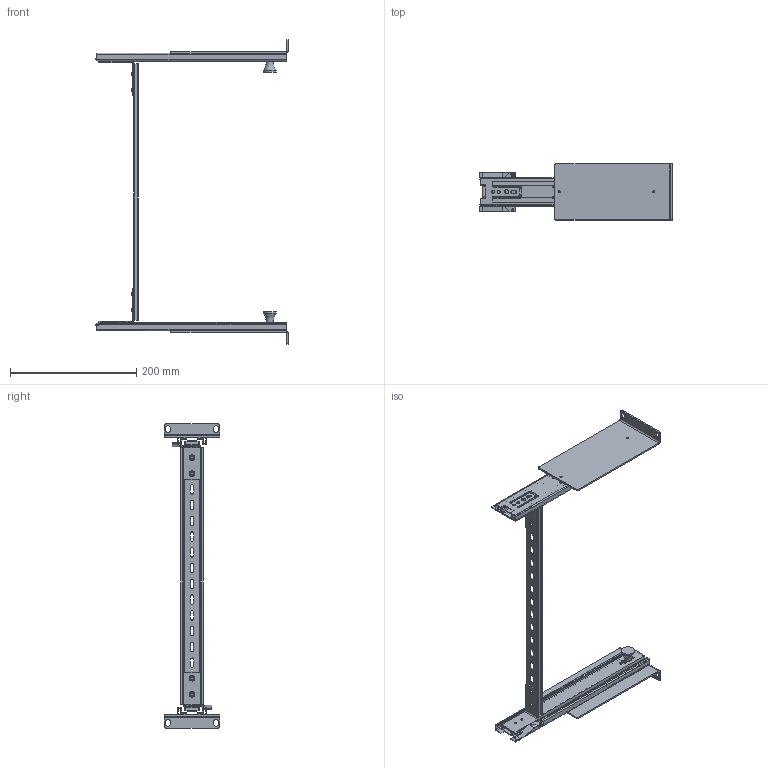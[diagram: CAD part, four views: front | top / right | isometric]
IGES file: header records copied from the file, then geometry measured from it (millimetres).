
Start section:  PTC IGES file: cu_rackmount_sliding.igs
Global section: file name: cu_rackmount_sliding.igs; native system: Pro/ENGINEER by Parametric Technology Corporation; preprocessor: 2006080; author: jpearson; organization: Unknown; date: 070817.135004; units: inch
Bounding box: 305.16 x 88.1 x 481.61 mm (x, y, z)
Surface area: 277049.5 mm2 (no closed solid volume)
Topology: 0 solids, 0 shells, 926 faces, 4932 edges, 4846 vertices
Faces by surface type: bspline 574, revolution 352
